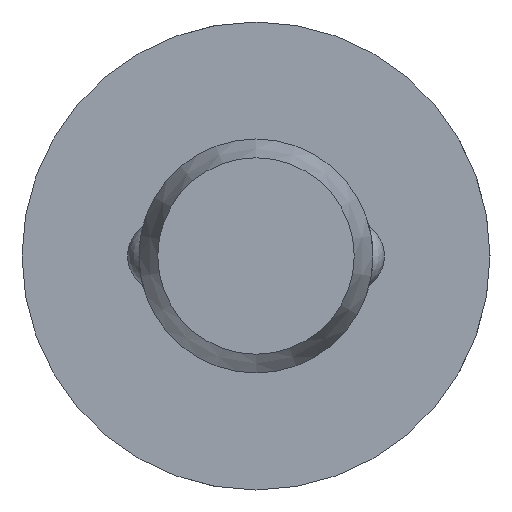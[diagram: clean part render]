
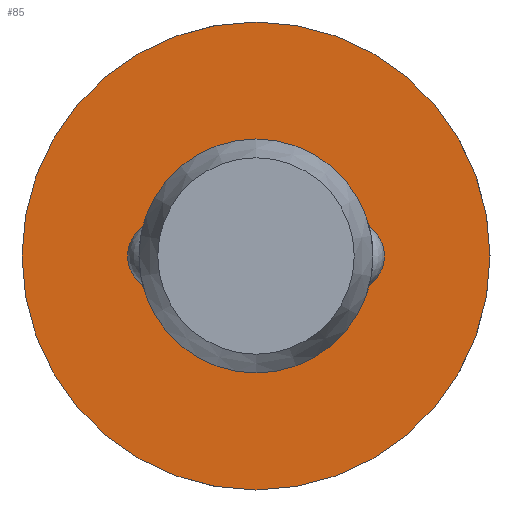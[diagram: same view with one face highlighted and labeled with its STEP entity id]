
A CAD part, left-side view. The second image highlights one B-rep face of the part: STEP entity #85.
In plain terms, the highlighted planar face has unit normal (-1, 0, 0).
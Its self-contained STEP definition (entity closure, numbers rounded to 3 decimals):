
#85 = ADVANCED_FACE( '', ( #131, #132 ), #133, .F. );
#131 = FACE_OUTER_BOUND( '', #204, .T. );
#132 = FACE_BOUND( '', #205, .T. );
#133 = PLANE( '', #206 );
#204 = EDGE_LOOP( '', ( #322 ) );
#205 = EDGE_LOOP( '', ( #323 ) );
#206 = AXIS2_PLACEMENT_3D( '', #324, #325, #326 );
#322 = ORIENTED_EDGE( '', *, *, #470, .F. );
#323 = ORIENTED_EDGE( '', *, *, #467, .T. );
#324 = CARTESIAN_POINT( '', ( 76., 2.5, 0. ) );
#325 = DIRECTION( '', ( 1., 0., 0. ) );
#326 = DIRECTION( '', ( 0., 0., -1. ) );
#467 = EDGE_CURVE( '', #541, #541, #542, .T. );
#470 = EDGE_CURVE( '', #547, #547, #548, .T. );
#541 = VERTEX_POINT( '', #749 );
#542 = CIRCLE( '', #750, 2.5 );
#547 = VERTEX_POINT( '', #801 );
#548 = CIRCLE( '', #802, 5. );
#749 = CARTESIAN_POINT( '', ( 76., 0., -2.5 ) );
#750 = AXIS2_PLACEMENT_3D( '', #881, #882, #883 );
#801 = CARTESIAN_POINT( '', ( 76., 0., -5. ) );
#802 = AXIS2_PLACEMENT_3D( '', #884, #885, #886 );
#881 = CARTESIAN_POINT( '', ( 76., 0., 0. ) );
#882 = DIRECTION( '', ( 1., 0., 0. ) );
#883 = DIRECTION( '', ( 0., 0., -1. ) );
#884 = CARTESIAN_POINT( '', ( 76., 0., 0. ) );
#885 = DIRECTION( '', ( 1., 0., 0. ) );
#886 = DIRECTION( '', ( 0., 0., -1. ) );
